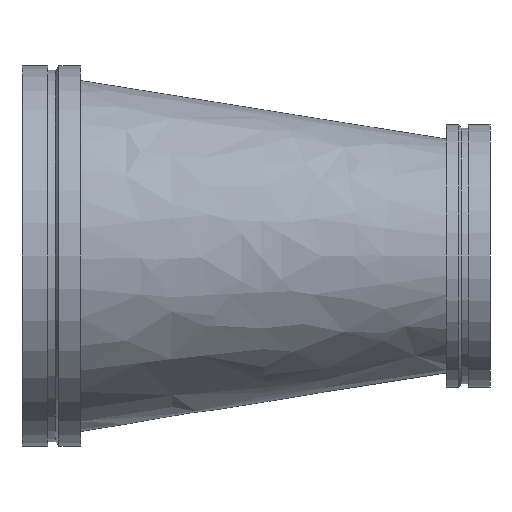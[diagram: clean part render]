
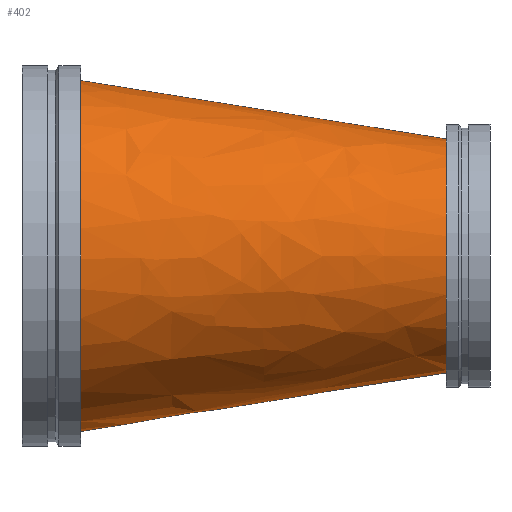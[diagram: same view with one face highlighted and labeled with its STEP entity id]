
A CAD part, front view. The second image highlights one B-rep face of the part: STEP entity #402.
In plain terms, the highlighted free-form (B-spline) face has degree [1, 2] with [2, 9] control points.
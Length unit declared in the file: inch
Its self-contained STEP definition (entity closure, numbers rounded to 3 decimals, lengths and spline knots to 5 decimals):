
#46=B_SPLINE_CURVE_WITH_KNOTS('',1,(#777,#778),.UNSPECIFIED.,.F.,.F.,(2,
2),(-2.1379,-0.0038),.UNSPECIFIED.);
#48=(
BOUNDED_SURFACE()
B_SPLINE_SURFACE(1,2,((#759,#760,#761,#762,#763,#764,#765,#766,#767),(#768,
#769,#770,#771,#772,#773,#774,#775,#776)),.UNSPECIFIED.,.F.,.T.,.F.)
B_SPLINE_SURFACE_WITH_KNOTS((2,2),(3,2,2,2,3),(-0.1561,2.23943),
(-3.14159,-1.5708,0.,1.5708,3.14159),
 .UNSPECIFIED.)
GEOMETRIC_REPRESENTATION_ITEM()
RATIONAL_B_SPLINE_SURFACE(((1.,0.707,1.,0.707,1.,
0.707,1.,0.707,1.),(1.,0.707,1.,0.707,
1.,0.707,1.,0.707,1.)))
REPRESENTATION_ITEM('')
SURFACE()
);
#98=FACE_OUTER_BOUND('',#120,.T.);
#120=EDGE_LOOP('',(#333,#334,#335,#336,#337,#338));
#129=CIRCLE('',#430,8.);
#130=CIRCLE('',#431,8.);
#153=CIRCLE('',#465,12.);
#154=CIRCLE('',#466,12.);
#169=VERTEX_POINT('',#652);
#170=VERTEX_POINT('',#653);
#193=VERTEX_POINT('',#719);
#194=VERTEX_POINT('',#720);
#209=EDGE_CURVE('',#169,#170,#129,.T.);
#210=EDGE_CURVE('',#170,#169,#130,.T.);
#241=EDGE_CURVE('',#193,#194,#153,.T.);
#242=EDGE_CURVE('',#194,#193,#154,.T.);
#252=EDGE_CURVE('',#170,#194,#46,.T.);
#333=ORIENTED_EDGE('',*,*,#209,.T.);
#334=ORIENTED_EDGE('',*,*,#252,.T.);
#335=ORIENTED_EDGE('',*,*,#242,.T.);
#336=ORIENTED_EDGE('',*,*,#241,.T.);
#337=ORIENTED_EDGE('',*,*,#252,.F.);
#338=ORIENTED_EDGE('',*,*,#210,.T.);
#402=ADVANCED_FACE('',(#98),#48,.F.);
#430=AXIS2_PLACEMENT_3D('',#654,#504,#505);
#431=AXIS2_PLACEMENT_3D('',#655,#506,#507);
#465=AXIS2_PLACEMENT_3D('',#721,#582,#583);
#466=AXIS2_PLACEMENT_3D('',#722,#584,#585);
#504=DIRECTION('center_axis',(-1.,0.,0.));
#505=DIRECTION('ref_axis',(0.,-1.,0.));
#506=DIRECTION('center_axis',(-1.,0.,0.));
#507=DIRECTION('ref_axis',(0.,-1.,0.));
#582=DIRECTION('center_axis',(1.,0.,0.));
#583=DIRECTION('ref_axis',(0.,1.,0.));
#584=DIRECTION('center_axis',(1.,0.,0.));
#585=DIRECTION('ref_axis',(0.,1.,0.));
#652=CARTESIAN_POINT('',(29.,-12.,0.));
#653=CARTESIAN_POINT('',(29.,-4.19494,7.99762));
#654=CARTESIAN_POINT('Origin',(29.,-4.,0.));
#655=CARTESIAN_POINT('Origin',(29.,-4.,0.));
#719=CARTESIAN_POINT('',(4.,12.,0.));
#720=CARTESIAN_POINT('',(4.,-0.29241,11.99644));
#721=CARTESIAN_POINT('Origin',(4.,0.,0.));
#722=CARTESIAN_POINT('Origin',(4.,0.,0.));
#759=CARTESIAN_POINT('Ctrl Pts',(2.12679,0.,
12.29606));
#760=CARTESIAN_POINT('Ctrl Pts',(0.25357,-12.,12.29606));
#761=CARTESIAN_POINT('Ctrl Pts',(0.25357,-12.,0.));
#762=CARTESIAN_POINT('Ctrl Pts',(0.25357,-12.,-12.29606));
#763=CARTESIAN_POINT('Ctrl Pts',(2.12679,0.,
-12.29606));
#764=CARTESIAN_POINT('Ctrl Pts',(4.,12.,-12.29606));
#765=CARTESIAN_POINT('Ctrl Pts',(4.,12.,0.));
#766=CARTESIAN_POINT('Ctrl Pts',(4.,12.,12.29606));
#767=CARTESIAN_POINT('Ctrl Pts',(2.12679,0.,
12.29606));
#768=CARTESIAN_POINT('Ctrl Pts',(30.1894,-4.38061,7.80738));
#769=CARTESIAN_POINT('Ctrl Pts',(29.,-12.,7.80738));
#770=CARTESIAN_POINT('Ctrl Pts',(29.,-12.,0.));
#771=CARTESIAN_POINT('Ctrl Pts',(29.,-12.,-7.80738));
#772=CARTESIAN_POINT('Ctrl Pts',(30.1894,-4.38061,-7.80738));
#773=CARTESIAN_POINT('Ctrl Pts',(31.37879,3.23879,-7.80738));
#774=CARTESIAN_POINT('Ctrl Pts',(31.37879,3.23879,0.));
#775=CARTESIAN_POINT('Ctrl Pts',(31.37879,3.23879,7.80738));
#776=CARTESIAN_POINT('Ctrl Pts',(30.1894,-4.38061,7.80738));
#777=CARTESIAN_POINT('Ctrl Pts',(29.,-4.19494,7.99762));
#778=CARTESIAN_POINT('Ctrl Pts',(4.,-0.29241,11.99644));
